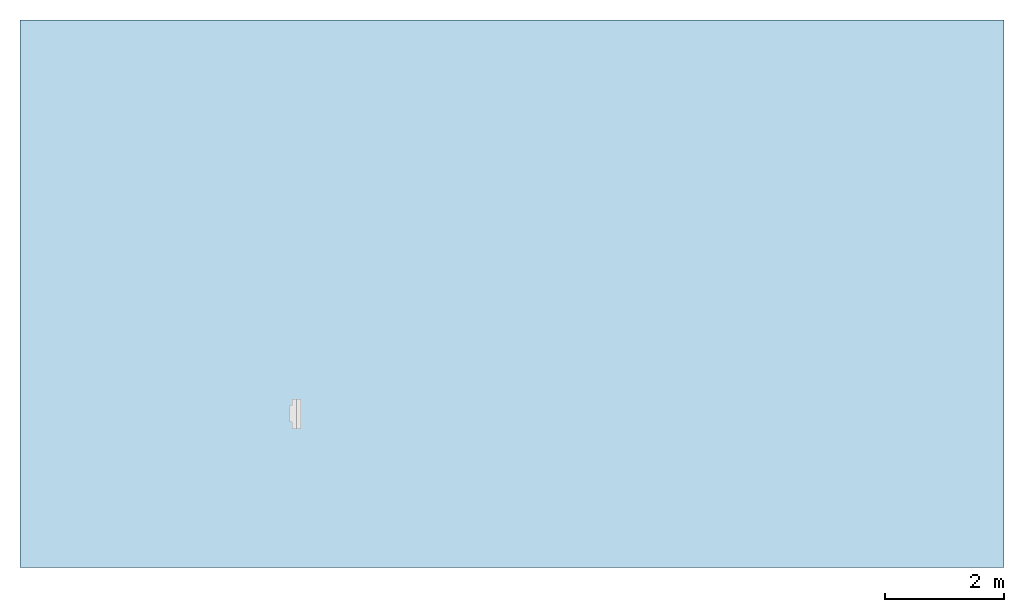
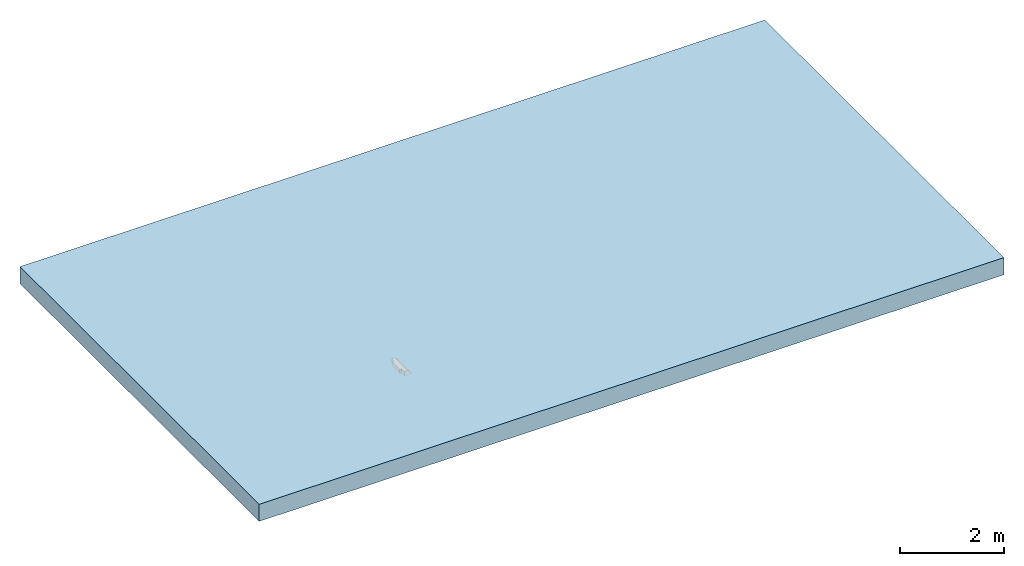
# One storey, part 1 of 2: 1 slab, 2 openings.
"""IFC2X3 building model written with IfcOpenShell, lengths in millimetres."""

from ifc_helpers import new_model, entity, si_unit, converted_unit, direction, frame, frame_2d, origin, origin_2d_with_axis, place, context, subcontext, project, spatial, polyline, rectangle, circle, outline, extrude, material, layer, layer_set, layer_usage, element, save


model = new_model("IFC2X3")

# Units and contexts
model_context = context("Model", 3, precision=1e-06, world=origin(), true_north=direction((2.0, 6.12303176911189e-17, 1.0)))
context_of_model = context(None, 3, precision=1e-06, world=origin(), true_north=direction((2.0, 6.12303176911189e-17, 1.0)))
body_context = subcontext(model_context, "Body", "Model", "MODEL_VIEW")
ifc_project = project(units=[si_unit("LENGTHUNIT", "METRE", prefix="MILLI"), si_unit("AREAUNIT", "SQUARE_METRE", prefix="MILLI"), si_unit("VOLUMEUNIT", "CUBIC_METRE", prefix="MILLI"), converted_unit("PLANEANGLEUNIT", "DEGREE", entity("IfcRatioMeasure", 0.0174532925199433), si_unit("PLANEANGLEUNIT", "RADIAN"), dimensions=[0, 0, 0, 0, 0, 0, 0]), si_unit("TIMEUNIT", "SECOND")], contexts=[model_context, context_of_model])

# Site, building, storey
site_placement = place(None, origin())
site = spatial("IfcSite", under=ifc_project, at=site_placement, Name="Default", CompositionType="ELEMENT")
building_placement = place(site_placement, origin())
building = spatial("IfcBuilding", under=site, at=building_placement, CompositionType="ELEMENT")
storey_placement = place(building_placement, origin())
storey = spatial("IfcBuildingStorey", under=building, at=storey_placement, Name="Level 1", CompositionType="ELEMENT", Elevation=0.0)

# Slab, openings
ifc_material = material(Name="Plant")
ifc_layer = layer(ifc_material, 400.0)
ifc_layer_set = layer_set([ifc_layer], Name="Floor:Generic Floor - 400mm")
ifc_layer_usage = layer_usage(ifc_layer_set, "AXIS3", "POSITIVE", 0.0)
slab_placement = place(storey_placement, frame((-17967.0691536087, -3738.31688706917, -400.0)))
slab = element("IfcSlab", 1, at=slab_placement, inside=storey, material=ifc_layer_usage, Name="Floor:Generic Floor - 400mm", ObjectType="Floor:Generic Floor - 400mm", PredefinedType="FLOOR", context=body_context, shape_type="SweptSolid", body=[
    extrude(rectangle(XDim=9180.0, YDim=16500.0, at=frame_2d((0.0, 0.0), x_axis=(0.0, -1.0))), frame((8250.0, 4590.0, 400.0), z_axis=(0.0, 0.0, -1.0), x_axis=(-1.0, 0.0, 0.0)), (0.0, 0.0, 1.0), 400.0),
])
opening_1_placement = place(slab_placement, origin())
element("IfcOpeningElement", 2, at=opening_1_placement, cuts=slab, ObjectType="Recess", context=body_context, shape_type="SweptSolid", body=[
    extrude(circle(Radius=55.0, at=origin_2d_with_axis()), frame((4636.37956964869, 2375.59509511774, -1475.0), z_axis=(0.0, 1.0, 0.0), x_axis=(1.0, 0.0, 0.0)), (0.0, 0.0, 1.0), 50.0),
])
opening_2_placement = place(slab_placement, origin())
element("IfcOpeningElement", 3, at=opening_2_placement, cuts=slab, ObjectType="Recess", context=body_context, shape_type="SweptSolid", body=[
    extrude(outline(polyline([(-122.885010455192, -249.91226460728), (27.114989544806, -249.91226460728), (27.114989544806, -140.263206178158), (68.655031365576, -140.263206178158), (68.655031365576, 140.087735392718), (27.1149895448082, 140.087735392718), (27.114989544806, 250.08773539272), (-122.885010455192, 250.08773539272), (-122.885010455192, -249.91226460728)])), frame((4588.90906091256, 2575.68283051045, 120.0), z_axis=(0.0, 0.0, 1.0), x_axis=(-1.0, 0.0, 0.0)), (0.0, 0.0, 1.0), 279.000000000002),
])

save(model, "model.ifc")
